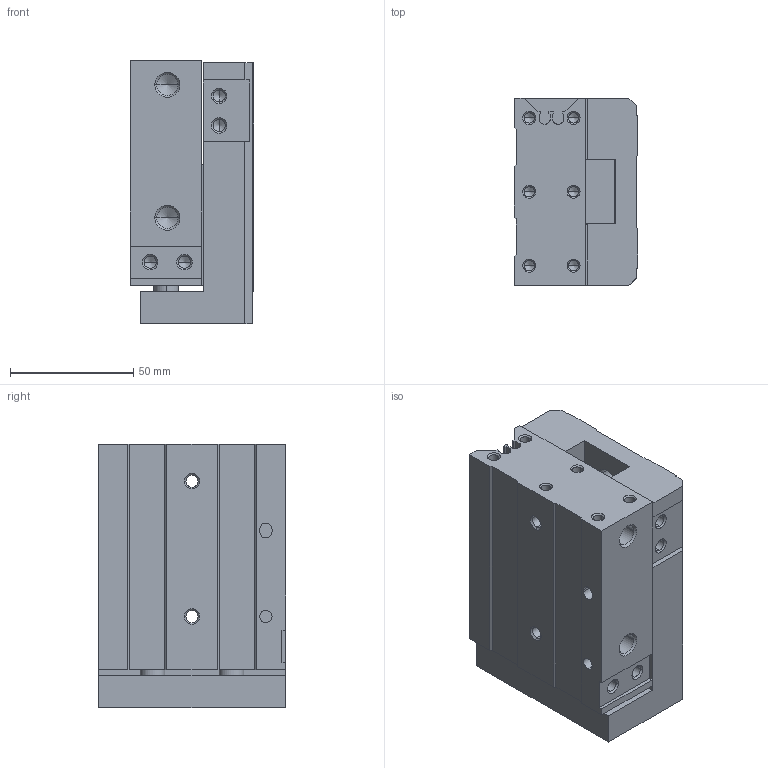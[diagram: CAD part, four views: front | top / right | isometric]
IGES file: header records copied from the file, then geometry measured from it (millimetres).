
Global section: file name: No Iges File Name specified; native system: Autodesk Inventor 2011; preprocessor: AutoDesk Inventor Iges Exporter R2011; author: airolcr1; date: 20110310.120110; units: millimetre
Bounding box: 50 x 76 x 107 mm (x, y, z)
Volume: 351074.2 mm3; surface area: 67896.2 mm2
Topology: 2 solids, 2 shells, 221 faces, 554 edges, 326 vertices
Faces by surface type: bspline 127, plane 78, revolution 12, cylinder 4
